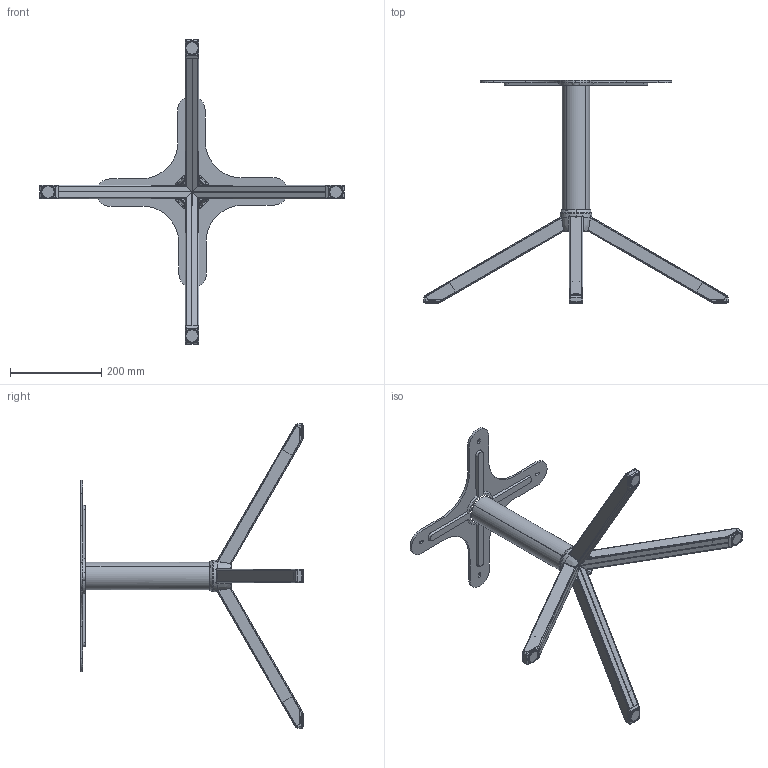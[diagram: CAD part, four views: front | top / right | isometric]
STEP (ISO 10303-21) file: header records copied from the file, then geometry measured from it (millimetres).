
FILE_DESCRIPTION (( 'STEP AP203' ), '1' );
FILE_NAME ('4 Ayak Merkez.STEP', '2020-12-18T14:28:16', ( 'PC' ), ( '' ), 'SwSTEP 2.0', 'SolidWorks 2015', '' );
FILE_SCHEMA (( 'CONFIG_CONTROL_DESIGN' ));
Length unit declared in the file: millimetre
Products named in the file (7): 4 ayak Cap 60 Göbek; ayak t; reg黮at鰎; Kucuk Flans; 4 AYAK; 4 Ayak Merkez; Q60 Masa Borusu
Assembly tree (15 placements, depth 2):
  4 Ayak Merkez
    4 AYAK  x4
    Q60 Masa Borusu
    4 ayak Cap 60 Göbek
    Kucuk Flans
    ayak t  x4
    reg黮at鰎  x4
Bounding box: 667 x 488.19 x 667 mm (x, y, z)
Volume: 644765.5 mm3; surface area: 608970.4 mm2
Topology: 15 solids, 15 shells, 1370 faces, 3455 edges, 2110 vertices
Faces by surface type: cylinder 545, plane 408, torus 198, bspline 190, cone 21, sphere 8
Entity records: 24014 total; most frequent: CARTESIAN_POINT 11011, ORIENTED_EDGE 2750, DIRECTION 2240, EDGE_CURVE 1375, VERTEX_POINT 856, AXIS2_PLACEMENT_3D 822, VECTOR 596, LINE 596
